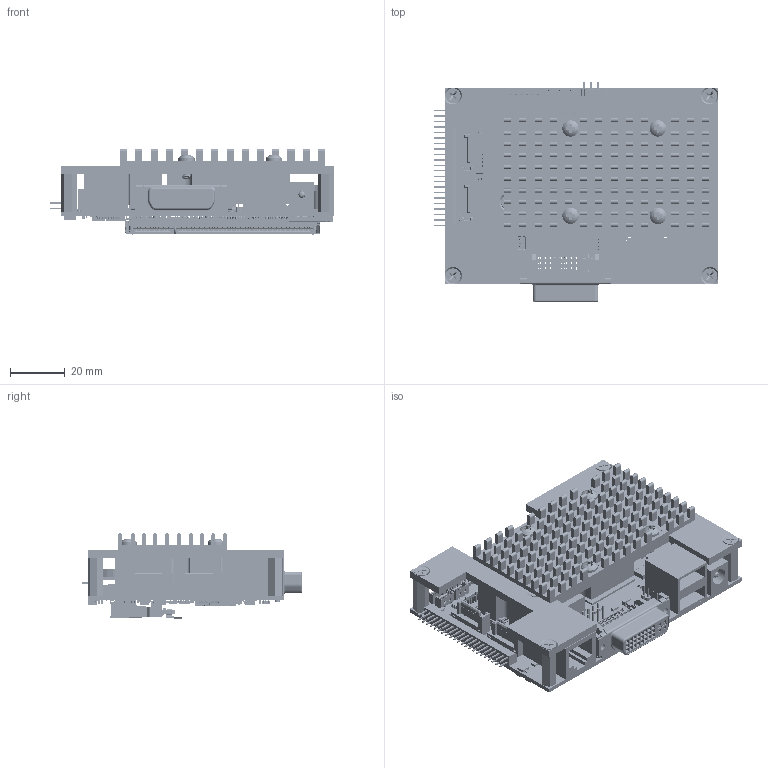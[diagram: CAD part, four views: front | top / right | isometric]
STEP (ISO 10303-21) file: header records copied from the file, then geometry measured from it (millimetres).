
FILE_DESCRIPTION (( 'STEP AP214' ), '1' );
FILE_NAME ('pITX-SP-3D.STEP', '2010-06-08T08:26:00', ( 'SLeuchtenberger' ), ( 'Kontron HH' ), 'SwSTEP 2.0', 'SolidWorks 2009', '' );
FILE_SCHEMA (( 'AUTOMOTIVE_DESIGN' ));
Length unit declared in the file: millimetre
Products named in the file (89): pITX-SP-Board-only; spider-sp-pcb_V200; J_DVI-I_29_1MM91_RA_MOLEX74320-1004_WAV_Default; J_USB-A_8_RA; J_TH_PWR_3; J_PINHEA-PLUG_44X2_1-2_2MM_ST_WAV; J_PINHEA-PLUG_12X2_1-2_2MM_ST_WAV; J_BKLT_6_MOL; J_PINHEA-BOX_4X1_1MM25_WAV; J_PINHEA-PLUG_10X2_1-2_2MM_ST; JP_PINHEA-PLUG_02X1_2MM54_ST_WAV; J_PINHEA-BOX_2X1_1MM25_WAV; J_PINHEA_7_1MM25_1MM8X0MM6; J_PINHEA-BOX_3X1_1MM25_WAV; J_PINHEA-PLUG_10X2_2MM54_ST_WAV; J_SATA_07_1MM27_ST_WAV; J_DDR2-STD_0MM6_5MM2_REF; J_MICROSD_MOLEX_492250821; U_441_BGA_0MM593; U_1249_BGA_0MM593; C_02_P_6MM6X6MM6_F80_REF; C_02_P_D2E_REF; C_02_P_D_REF; C_02_P_D4_REF; C_02_P_B_REF; C_02_NP_1210_REF_DEG; C_02_NP_1206_REF; L_02_2725KOMBI_REF; L_02_IHLP-1616_REF; U_09_LLP8_2MM5_3MM0; Y_02_JTX410_REF; D_02_SOD323_REF; D_03_SOT23_REF; Q_03_SOT23_REF; Y_04_JXG32P4_REF; Q_04_SC62_REF; U_05_SOT23-5_REF; U_06_SOT23_REF; U_06_SC70_0MM65_REF; U_8_SOP-8L_1MM27_REF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
Assembly tree (168 placements, depth 4):
  pITX-SP-3D
    HEX-M3X14II  x3
    DIN965_M3x6-Z  x4
    cooling-solution
      TAPE2
      SLUG01
      TAPE3
      TAPE1
      7973
      TAPE7
      SCREW  x4
      TAPE6
      23404  x4
      TAPE5
      SLUG2TAPE
      SLUG1TAPE
      7975
      SLUG2
    pITX-SP-batteryholder
      53261-1071
      battery-module-PCB
      79107-7330
      battery-dummie
    pITX-SP-Board-only
      J_PINHEA-PLUG_12X2_1-2_2MM_ST_WAV
      C_02_P_6MM6X6MM6_F80_REF  x2
      U_06_SOT23_REF  x14
      U_06_SC70_0MM65_REF  x6
      U_8_TSSOP_0MM65_REF
      U_100_MBGA_0MM5_REF
      JP_PINHEA-PLUG_02X1_2MM54_ST_WAV
      C_02_P_B_REF  x2
      U_09_LLP8_2MM5_3MM0
      D_02_SOD323_REF  x7
      U_65_QFN_0MM5_1MM0_REF
      J_TH_PWR_3
      J_MICROSD_MOLEX_492250821
      C_02_NP_1206_REF  x10
      Y_04_JXG32P4_REF  x3
      Q_08_SO8_REF  x2
      U_48_MLF_0MM4_6MMX6MM_REF
      J_PINHEA-PLUG_10X2_1-2_2MM_ST
      C_02_P_D4_REF
      Y_02_JTX410_REF
      U_05_SOT23-5_REF  x4
      U_28_TSSOP_0MM65_REF
      J_PINHEA-PLUG_44X2_1-2_2MM_ST_WAV
      U_441_BGA_0MM593
      U_1249_BGA_0MM593
      Q_03_SOT23_REF  x10
      U_18_QFN_0MM8_5MM_5MM_REF
      J_PINHEA-BOX_4X1_1MM25_WAV  x4
      L_02_2725KOMBI_REF
      U_20_MLPQ_0MM5_REF  x2
      J_USB-A_8_RA
      J_DDR2-STD_0MM6_5MM2_REF
      U_20_TSSOP_0MM65_REF
      U_8_TSSOP_0MM65_4MM_REF
      U_35_MLPQ_0MM5_5MMX5MM_REF
      L_02_IHLP-1616_REF  x4
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Bounding box: 104.02 x 80.37 x 31.35 mm (x, y, z)
Volume: 75258.8 mm3; surface area: 87849.2 mm2
Topology: 226 solids, 228 shells, 23363 faces, 59338 edges, 39114 vertices
Faces by surface type: plane 17076, cylinder 6096, cone 77, torus 56, bspline 54, sphere 4
Entity records: 653552 total; most frequent: CARTESIAN_POINT 108528, DIRECTION 97870, ORIENTED_EDGE 96439, EDGE_CURVE 48458, VECTOR 36226, LINE 36226, VERTEX_POINT 31950, AXIS2_PLACEMENT_3D 30822
